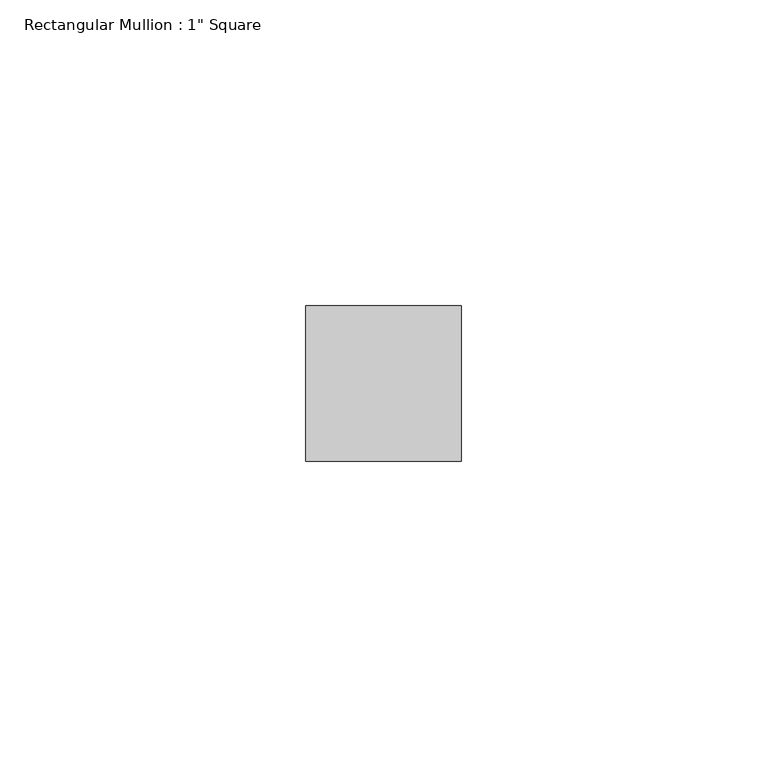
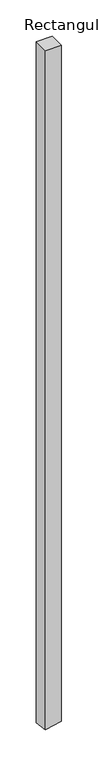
"""IFC4 building model written with IfcOpenShell, lengths in millimetres: member geometry."""

from ifc_helpers import new_model, si_unit, origin, place, context, project, spatial, faceted_brep, source, transform, mapped, element, save


def member_28d1bbef(model_context):
    return source(origin(), model_context, "Body", "Brep", [
        faceted_brep([(12.7, 12.7, 0.0), (-12.7, 12.7, 0.0), (-12.7, -12.7, 0.0), (12.7, -12.7, 0.0), (12.7, 12.7, -1142.2748096), (-12.7, 12.7, -1147.5162123), (-12.7, -12.7, -1144.2791942), (12.7, -12.7, -1139.0377915)], [[[0, 1, 2, 3]], [[1, 0, 4, 5]], [[2, 1, 5, 6]], [[3, 2, 6, 7]], [[0, 3, 7, 4]], [[4, 7, 6, 5]]]),
    ])


if __name__ == "__main__":
    model = new_model("IFC4")
    model_context = context("Model", 3, world=origin())
    ifc_project = project(units=[si_unit("LENGTHUNIT", "METRE", prefix="MILLI")], contexts=[model_context])
    site = spatial("IfcSite", under=ifc_project)
    building = spatial("IfcBuilding", under=site)
    placement = place(None, origin())
    member_shape = member_28d1bbef(model_context)
    element("IfcMember", 1, ObjectType="Rectangular Mullion : 1\" Square", at=placement, inside=building, context=model_context, shape_type="MappedRepresentation", body=[
        mapped(member_shape, transform((0.0, 0.0, 0.0), x_axis=(1.0, 0.0, 0.0), y_axis=(0.0, 1.0, 0.0), z_axis=(0.0, 0.0, 1.0))),
    ])
    save(model, "model.ifc")
